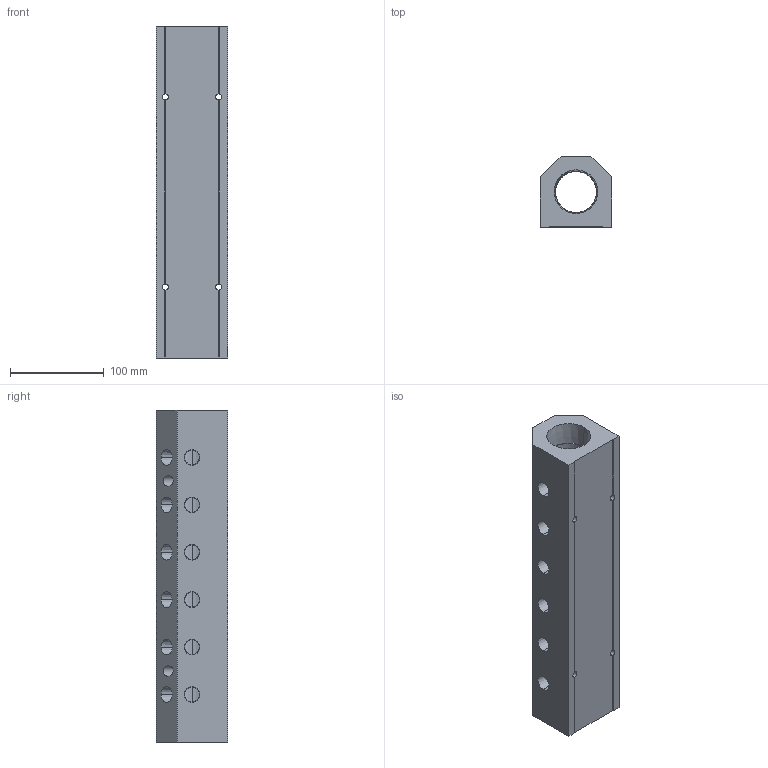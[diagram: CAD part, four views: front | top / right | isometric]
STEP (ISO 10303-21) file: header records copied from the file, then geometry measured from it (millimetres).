
FILE_DESCRIPTION (( 'STEP AP214' ), '1' );
FILE_NAME ('ALM6ABC-N6N24-355B.step', '2022-02-07T09:08:21', ( '' ), ( '' ), 'SwSTEP 2.0', 'SolidWorks 2020', '' );
FILE_SCHEMA (( 'AUTOMOTIVE_DESIGN' ));
Length unit declared in the file: millimetre
Products named in the file (1): ALM6ABC-N6N24-355B
Bounding box: 76.2 x 76.2 x 355 mm (x, y, z)
Volume: 1258365.3 mm3; surface area: 169185 mm2
Topology: 1 solids, 1 shells, 356 faces, 955 edges, 630 vertices
Faces by surface type: plane 214, bspline 84, cone 40, cylinder 18
Entity records: 21147 total; most frequent: CARTESIAN_POINT 9374, ORIENTED_EDGE 1910, DIRECTION 1353, EDGE_CURVE 955, LINE 663, VECTOR 663, VERTEX_POINT 630, EDGE_LOOP 431
